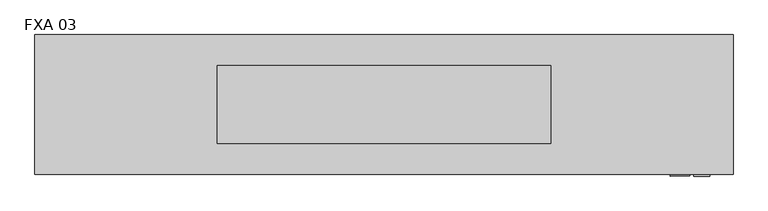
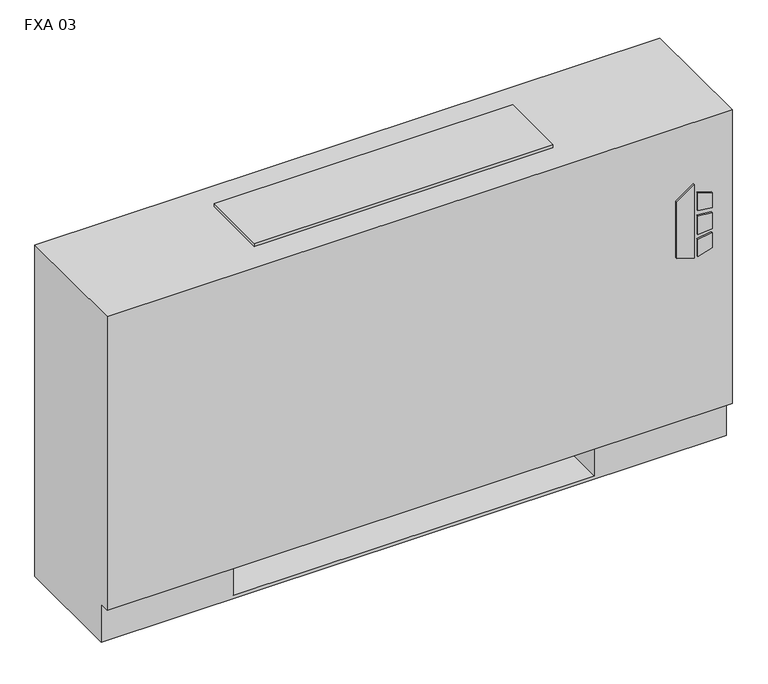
"""IFC4 building model written with IfcOpenShell, lengths in millimetres: proxy geometry, Vertical_Fan_Coil_Unit_-_FXA_-_IEC_-_4-Pipe_TS-FR_RH_2022 : FXA 03."""

from ifc_helpers import new_model, si_unit, point, frame, frame_2d, origin, place, context, project, spatial, polyline, circle_curve, trimmed, segment, composite_curve, outline, extrude, source, transform, mapped, element, save
from ifc_brep_helpers import plane_surface, revolved_surface, advanced_brep


def fxa_03_0b86ff3d(model_context):
    return source(origin(), model_context, "Body", "SolidModel", [
        extrude(outline(polyline([(391.6086829, 620.7868862), (381.6606126, 652.9602728), (523.831537, 652.9602728), (500.8095309, 620.7868862), (391.6086829, 620.7868862)])), frame((0.0, 12.7, 0.0), z_axis=(0.0, 1.0, 0.0), x_axis=(0.0, 0.0, 1.0)), (0.0, 0.0, 1.0), 3.175),
        extrude(outline(polyline([(470.6079683, 659.7186058), (467.4055757, 685.8), (496.6344168, 685.8), (504.6988318, 659.7186058), (470.6079683, 659.7186058)])), frame((0.0, 12.7, 0.0), z_axis=(0.0, 1.0, 0.0), x_axis=(0.0, 0.0, 1.0)), (0.0, 0.0, 1.0), 3.175),
        extrude(outline(polyline([(418.7444414, 685.8), (415.0789404, 659.7186058), (381.6606126, 659.7186058), (390.2948498, 685.8), (418.7444414, 685.8)])), frame((0.0, 12.7, 0.0), z_axis=(0.0, 1.0, 0.0), x_axis=(0.0, 0.0, 1.0)), (0.0, 0.0, 1.0), 3.175),
        extrude(outline(polyline([(458.0596028, 685.8), (460.3414292, 659.7186058), (424.4038806, 659.7186058), (427.1451456, 685.8), (458.0596028, 685.8)])), frame((0.0, 12.7, 0.0), z_axis=(0.0, 1.0, 0.0), x_axis=(0.0, 0.0, 1.0)), (0.0, 0.0, 1.0), 3.175),
        extrude(outline(polyline([(-298.45, 81.534), (-298.45, 223.266), (-177.8, 223.266), (-177.8, 81.534), (-298.45, 81.534)])), frame((0.0, 0.0, 327.025), z_axis=(0.0, 0.0, 1.0), x_axis=(1.0, 0.0, 0.0)), (0.0, 0.0, 1.0), 260.35),
        extrude(outline(composite_curve([segment(trimmed(circle_curve(frame_2d((546.1, 130.175)), 9.525), [point((536.575, 130.175))], [point((555.625, 130.175))], False, "CARTESIAN"), True, "CONTINUOUS"), segment(trimmed(circle_curve(frame_2d((546.1, 130.175)), 9.525), [point((555.625, 130.175))], [point((536.575, 130.175))], False, "CARTESIAN"), True, "CONTINUOUS")], self_intersect=False)), frame((0.0, 0.0, 101.6), z_axis=(0.0, 0.0, 1.0), x_axis=(1.0, 0.0, 0.0)), (0.0, 0.0, 1.0), 25.4),
        extrude(outline(polyline([(641.35, 196.85), (641.35, 63.5), (482.6, 63.5), (482.6, 196.85), (641.35, 196.85)])), frame((0.0, 0.0, 127.0), z_axis=(0.0, 0.0, 1.0), x_axis=(1.0, 0.0, 0.0)), (0.0, 0.0, 1.0), 50.8),
        extrude(outline(composite_curve([segment(trimmed(circle_curve(frame_2d((117.475, 472.44)), 7.9375), [point((117.475, 480.3775))], [point((117.475, 464.5025))], False, "CARTESIAN"), True, "CONTINUOUS"), segment(trimmed(circle_curve(frame_2d((117.475, 472.44)), 7.9375), [point((117.475, 464.5025))], [point((117.475, 480.3775))], False, "CARTESIAN"), True, "CONTINUOUS")], self_intersect=False)), frame((482.6, 0.0, 0.0), z_axis=(1.0, 0.0, 0.0), x_axis=(0.0, 1.0, 0.0)), (0.0, 0.0, 1.0), 50.8),
        extrude(outline(composite_curve([segment(trimmed(circle_curve(frame_2d((164.0586, 445.897)), 7.9375), [point((164.0586, 453.8345))], [point((164.0586, 437.9595))], False, "CARTESIAN"), True, "CONTINUOUS"), segment(trimmed(circle_curve(frame_2d((164.0586, 445.897)), 7.9375), [point((164.0586, 437.9595))], [point((164.0586, 453.8345))], False, "CARTESIAN"), True, "CONTINUOUS")], self_intersect=False)), frame((482.6, 0.0, 0.0), z_axis=(1.0, 0.0, 0.0), x_axis=(0.0, 1.0, 0.0)), (0.0, 0.0, 1.0), 50.8),
        extrude(outline(composite_curve([segment(trimmed(circle_curve(frame_2d((130.175, 554.99)), 7.9502), [point((130.175, 562.9402))], [point((130.175, 547.0398))], False, "CARTESIAN"), True, "CONTINUOUS"), segment(trimmed(circle_curve(frame_2d((130.175, 554.99)), 7.9502), [point((130.175, 547.0398))], [point((130.175, 562.9402))], False, "CARTESIAN"), True, "CONTINUOUS")], self_intersect=False)), frame((482.6, 0.0, 0.0), z_axis=(1.0, 0.0, 0.0), x_axis=(0.0, 1.0, 0.0)), (0.0, 0.0, 1.0), 50.8),
        extrude(outline(composite_curve([segment(trimmed(circle_curve(frame_2d((53.975, 416.56)), 7.9502), [point((53.975, 424.5102))], [point((53.975, 408.6098))], False, "CARTESIAN"), True, "CONTINUOUS"), segment(trimmed(circle_curve(frame_2d((53.975, 416.56)), 7.9502), [point((53.975, 408.6098))], [point((53.975, 424.5102))], False, "CARTESIAN"), True, "CONTINUOUS")], self_intersect=False)), frame((482.6, 0.0, 0.0), z_axis=(1.0, 0.0, 0.0), x_axis=(0.0, 1.0, 0.0)), (0.0, 0.0, 1.0), 50.8),
        advanced_brep(
        [(723.9, 244.475, 641.35), (-419.1, 244.475, 641.35), (-419.1, 15.875, 641.35), (723.9, 15.875, 641.35), (-419.1, 244.475, 0.0), (723.9, 244.475, 0.0), (723.9, 34.925, 0.0), (-419.1, 34.925, 0.0), (482.6, 244.475, 73.025), (711.2, 244.475, 73.025), (711.2, 244.475, 628.65), (482.6, 244.475, 628.65), (482.6, 244.475, 414.8650565), (511.175, 244.475, 414.8650565), (511.175, 244.475, 385.2349435), (482.6, 244.475, 385.2349435), (482.6, 244.475, 287.3375), (511.175, 244.475, 287.3375), (511.175, 244.475, 258.7625), (482.6, 244.475, 258.7625), (482.6, 244.475, 141.2875), (511.175, 244.475, 141.2875), (511.175, 244.475, 112.7125), (482.6, 244.475, 112.7125), (-177.8, 244.475, 628.65), (-406.4, 244.475, 628.65), (-406.4, 244.475, 73.025), (-177.8, 244.475, 73.025), (-177.8, 244.475, 112.7125), (-206.375, 244.475, 112.7125), (-206.375, 244.475, 141.2875), (-177.8, 244.475, 141.2875), (-177.8, 244.475, 258.7625), (-206.375, 244.475, 258.7625), (-206.375, 244.475, 287.3375), (-177.8, 244.475, 287.3375), (-177.8, 244.475, 385.2349435), (-206.375, 244.475, 385.2349435), (-206.375, 244.475, 414.8650565), (-177.8, 244.475, 414.8650565), (500.8626, 244.475, 127.0), (489.7374, 244.475, 127.0), (500.8626, 244.475, 400.05), (489.7374, 244.475, 400.05), (500.8626, 244.475, 273.05), (489.7374, 244.475, 273.05), (-184.9374, 244.475, 127.0), (-196.0626, 244.475, 127.0), (-184.9374, 244.475, 273.05), (-196.0626, 244.475, 273.05), (-184.9374, 244.475, 400.05), (-196.0626, 244.475, 400.05), (-419.1, 34.925, 73.025), (-419.1, 15.875, 73.025), (723.9, 15.875, 73.025), (723.9, 34.925, 73.025), (-177.8, 34.925, 73.025), (-177.8, 219.075, 73.025), (482.6, 219.075, 73.025), (482.6, 34.925, 73.025), (482.6, 34.925, 6.35), (-177.8, 34.925, 6.35), (482.6, 41.275, 628.65), (711.2, 41.275, 628.65), (711.2, 41.275, 73.025), (482.6, 41.275, 73.025), (-177.8, 41.275, 628.65), (-177.8, 41.275, 73.025), (-406.4, 41.275, 73.025), (-406.4, 41.275, 628.65), (482.6, 219.075, 73.025), (482.6, 238.125, 112.7125), (482.6, 238.125, 141.2875), (482.6, 238.125, 258.7625), (482.6, 238.125, 287.3375), (482.6, 238.125, 385.2349435), (482.6, 238.125, 414.8650565), (-177.8, 219.075, 73.025), (-177.8, 238.125, 414.8650565), (-177.8, 238.125, 385.2349435), (-177.8, 238.125, 287.3375), (-177.8, 238.125, 258.7625), (-177.8, 238.125, 141.2875), (-177.8, 238.125, 112.7125), (-177.8, 219.075, 6.35), (482.6, 219.075, 6.35), (511.175, 238.125, 112.7125), (511.175, 238.125, 141.2875), (489.7374, 238.125, 127.0), (500.8626, 238.125, 127.0), (511.175, 238.125, 258.7625), (511.175, 238.125, 287.3375), (489.7374, 238.125, 273.05), (500.8626, 238.125, 273.05), (511.175, 238.125, 385.2349435), (511.175, 238.125, 414.8650565), (489.7374, 238.125, 400.05), (500.8626, 238.125, 400.05), (-206.375, 238.125, 141.2875), (-206.375, 238.125, 112.7125), (-196.0626, 238.125, 127.0), (-184.9374, 238.125, 127.0), (-206.375, 238.125, 287.3375), (-206.375, 238.125, 258.7625), (-196.0626, 238.125, 273.05), (-184.9374, 238.125, 273.05), (-206.375, 238.125, 414.8650565), (-206.375, 238.125, 385.2349435), (-196.0626, 238.125, 400.05), (-184.9374, 238.125, 400.05)],
        [
            (0, 1),
            (1, 2),
            (2, 3),
            (3, 0),
            (4, 5),
            (5, 6),
            (6, 7),
            (7, 4),
            (0, 5),
            (4, 1),
            (8, 9),
            (9, 10),
            (10, 11),
            (11, 12),
            (12, 13),
            (13, 14),
            (14, 15),
            (15, 16),
            (16, 17),
            (17, 18),
            (18, 19),
            (19, 20),
            (20, 21),
            (21, 22),
            (22, 23),
            (23, 8),
            (24, 25),
            (25, 26),
            (26, 27),
            (27, 28),
            (28, 29),
            (29, 30),
            (30, 31),
            (31, 32),
            (32, 33),
            (33, 34),
            (34, 35),
            (35, 36),
            (36, 37),
            (37, 38),
            (38, 39),
            (39, 24),
            (40, 41, circle_curve(frame((495.3, 244.475, 127.0), z_axis=(0.0, -1.0, 0.0), x_axis=(-1.0, 0.0, 0.0)), 5.5626)),
            (41, 40, circle_curve(frame((495.3, 244.475, 127.0), z_axis=(0.0, -1.0, 0.0), x_axis=(-1.0, 0.0, 0.0)), 5.5626)),
            (42, 43, circle_curve(frame((495.3, 244.475, 400.05), z_axis=(0.0, -1.0, 0.0), x_axis=(-1.0, 0.0, 0.0)), 5.5626)),
            (43, 42, circle_curve(frame((495.3, 244.475, 400.05), z_axis=(0.0, -1.0, 0.0), x_axis=(-1.0, 0.0, 0.0)), 5.5626)),
            (44, 45, circle_curve(frame((495.3, 244.475, 273.05), z_axis=(0.0, -1.0, 0.0), x_axis=(-1.0, 0.0, 0.0)), 5.5626)),
            (45, 44, circle_curve(frame((495.3, 244.475, 273.05), z_axis=(0.0, -1.0, 0.0), x_axis=(-1.0, 0.0, 0.0)), 5.5626)),
            (46, 47, circle_curve(frame((-190.5, 244.475, 127.0), z_axis=(0.0, -1.0, 0.0), x_axis=(-1.0, 0.0, 0.0)), 5.5626)),
            (47, 46, circle_curve(frame((-190.5, 244.475, 127.0), z_axis=(0.0, -1.0, 0.0), x_axis=(-1.0, 0.0, 0.0)), 5.5626)),
            (48, 49, circle_curve(frame((-190.5, 244.475, 273.05), z_axis=(0.0, -1.0, 0.0), x_axis=(-1.0, 0.0, 0.0)), 5.5626)),
            (49, 48, circle_curve(frame((-190.5, 244.475, 273.05), z_axis=(0.0, -1.0, 0.0), x_axis=(-1.0, 0.0, 0.0)), 5.5626)),
            (50, 51, circle_curve(frame((-190.5, 244.475, 400.05), z_axis=(0.0, -1.0, 0.0), x_axis=(-1.0, 0.0, 0.0)), 5.5626)),
            (51, 50, circle_curve(frame((-190.5, 244.475, 400.05), z_axis=(0.0, -1.0, 0.0), x_axis=(-1.0, 0.0, 0.0)), 5.5626)),
            (7, 52),
            (52, 53),
            (53, 2),
            (53, 54),
            (54, 3),
            (54, 55),
            (55, 6),
            (52, 56),
            (56, 57),
            (57, 58),
            (58, 59),
            (59, 55),
            (59, 60),
            (60, 61),
            (61, 56),
            (62, 63),
            (63, 64),
            (64, 65),
            (65, 62),
            (66, 67),
            (67, 68),
            (68, 69),
            (69, 66),
            (65, 70),
            (70, 8),
            (23, 71),
            (71, 72),
            (72, 20),
            (19, 73),
            (73, 74),
            (74, 16),
            (15, 75),
            (75, 76),
            (76, 12),
            (11, 62),
            (64, 9),
            (63, 10),
            (69, 25),
            (24, 66),
            (68, 26),
            (67, 77),
            (77, 27),
            (39, 78),
            (78, 79),
            (79, 36),
            (35, 80),
            (80, 81),
            (81, 32),
            (31, 82),
            (82, 83),
            (83, 28),
            (57, 84),
            (84, 85),
            (85, 58),
            (85, 60),
            (84, 61),
            (71, 86),
            (86, 87),
            (87, 72),
            (88, 89, circle_curve(frame((495.3, 238.125, 127.0), z_axis=(0.0, 1.0, 0.0), x_axis=(-1.0, 0.0, 0.0)), 5.5626)),
            (89, 88, circle_curve(frame((495.3, 238.125, 127.0), z_axis=(0.0, 1.0, 0.0), x_axis=(-1.0, 0.0, 0.0)), 5.5626)),
            (73, 90),
            (90, 91),
            (91, 74),
            (92, 93, circle_curve(frame((495.3, 238.125, 273.05), z_axis=(0.0, 1.0, 0.0), x_axis=(-1.0, 0.0, 0.0)), 5.5626)),
            (93, 92, circle_curve(frame((495.3, 238.125, 273.05), z_axis=(0.0, 1.0, 0.0), x_axis=(-1.0, 0.0, 0.0)), 5.5626)),
            (75, 94),
            (94, 95),
            (95, 76),
            (96, 97, circle_curve(frame((495.3, 238.125, 400.05), z_axis=(0.0, 1.0, 0.0), x_axis=(-1.0, 0.0, 0.0)), 5.5626)),
            (97, 96, circle_curve(frame((495.3, 238.125, 400.05), z_axis=(0.0, 1.0, 0.0), x_axis=(-1.0, 0.0, 0.0)), 5.5626)),
            (98, 99),
            (99, 83),
            (82, 98),
            (100, 101, circle_curve(frame((-190.5, 238.125, 127.0), z_axis=(0.0, 1.0, 0.0), x_axis=(-1.0, 0.0, 0.0)), 5.5626)),
            (101, 100, circle_curve(frame((-190.5, 238.125, 127.0), z_axis=(0.0, 1.0, 0.0), x_axis=(-1.0, 0.0, 0.0)), 5.5626)),
            (102, 103),
            (103, 81),
            (80, 102),
            (104, 105, circle_curve(frame((-190.5, 238.125, 273.05), z_axis=(0.0, 1.0, 0.0), x_axis=(-1.0, 0.0, 0.0)), 5.5626)),
            (105, 104, circle_curve(frame((-190.5, 238.125, 273.05), z_axis=(0.0, 1.0, 0.0), x_axis=(-1.0, 0.0, 0.0)), 5.5626)),
            (106, 107),
            (107, 79),
            (78, 106),
            (108, 109, circle_curve(frame((-190.5, 238.125, 400.05), z_axis=(0.0, 1.0, 0.0), x_axis=(-1.0, 0.0, 0.0)), 5.5626)),
            (109, 108, circle_curve(frame((-190.5, 238.125, 400.05), z_axis=(0.0, 1.0, 0.0), x_axis=(-1.0, 0.0, 0.0)), 5.5626)),
            (87, 21),
            (86, 22),
            (91, 17),
            (90, 18),
            (95, 13),
            (94, 14),
            (30, 98),
            (99, 29),
            (34, 102),
            (103, 33),
            (38, 106),
            (107, 37),
            (88, 41),
            (40, 89),
            (96, 43),
            (42, 97),
            (92, 45),
            (44, 93),
            (100, 47),
            (46, 101),
            (104, 49),
            (48, 105),
            (108, 51),
            (50, 109),
        ],
        [
            plane_surface(frame((-419.1, 244.475, 641.35), z_axis=(0.0, 0.0, 1.0), x_axis=(-1.0, 0.0, 0.0))),
            plane_surface(frame((-419.1, 244.475, 0.0), z_axis=(0.0, 0.0, -1.0), x_axis=(1.0, 0.0, 0.0))),
            plane_surface(frame((723.9, 244.475, 641.35), z_axis=(0.0, 1.0, 0.0), x_axis=(0.0, 0.0, -1.0))),
            plane_surface(frame((-419.1, 244.475, 641.35), z_axis=(-1.0, 0.0, 0.0), x_axis=(0.0, 0.0, -1.0))),
            plane_surface(frame((-419.1, 15.875, 641.35), z_axis=(0.0, -1.0, 0.0), x_axis=(0.0, 0.0, -1.0))),
            plane_surface(frame((723.9, 15.875, 641.35), z_axis=(1.0, 0.0, 0.0), x_axis=(0.0, 0.0, -1.0))),
            plane_surface(frame((-419.1, 15.875, 73.025), z_axis=(0.0, 0.0, -1.0), x_axis=(1.0, 0.0, 0.0))),
            plane_surface(frame((-419.1, 34.925, 73.025), z_axis=(0.0, -1.0, 0.0), x_axis=(1.0, 0.0, 0.0))),
            plane_surface(frame((482.6, 41.275, 628.65), z_axis=(0.0, 1.0, 0.0), x_axis=(0.0, 0.0, -1.0))),
            plane_surface(frame((482.6, 41.275, 628.65), z_axis=(1.0, 0.0, 0.0), x_axis=(0.0, 1.0, 0.0))),
            plane_surface(frame((482.6, 41.275, 73.025), z_axis=(0.0, 0.0, 1.0), x_axis=(0.0, 1.0, 0.0))),
            plane_surface(frame((711.2, 41.275, 73.025), z_axis=(-1.0, 0.0, 0.0), x_axis=(0.0, 1.0, 0.0))),
            plane_surface(frame((711.2, 41.275, 628.65), z_axis=(0.0, 0.0, -1.0), x_axis=(0.0, 1.0, 0.0))),
            plane_surface(frame((-177.8, 41.275, 628.65), z_axis=(0.0, 0.0, -1.0), x_axis=(0.0, 1.0, 0.0))),
            plane_surface(frame((-406.4, 41.275, 628.65), z_axis=(1.0, 0.0, 0.0), x_axis=(0.0, 1.0, 0.0))),
            plane_surface(frame((-406.4, 41.275, 73.025), z_axis=(0.0, 0.0, 1.0), x_axis=(0.0, 1.0, 0.0))),
            plane_surface(frame((-177.8, 41.275, 73.025), z_axis=(-1.0, 0.0, 0.0), x_axis=(0.0, 1.0, 0.0))),
            plane_surface(frame((482.6, 219.075, 73.025), z_axis=(0.0, -1.0, 0.0), x_axis=(0.0, 0.0, -1.0))),
            plane_surface(frame((482.6, 219.075, 73.025), z_axis=(-1.0, 0.0, 0.0), x_axis=(0.0, -1.0, 0.0))),
            plane_surface(frame((482.6, 219.075, 6.35), z_axis=(0.0, 0.0, 1.0), x_axis=(0.0, -1.0, 0.0))),
            plane_surface(frame((-177.8, 219.075, 6.35), z_axis=(1.0, 0.0, 0.0), x_axis=(0.0, -1.0, 0.0))),
            plane_surface(frame((511.175, 238.125, 141.2875), z_axis=(0.0, -1.0, 0.0), x_axis=(-1.0, 0.0, 0.0))),
            plane_surface(frame((482.6, 244.475, 141.2875), z_axis=(0.0, 0.0, 1.0), x_axis=(0.0, -1.0, 0.0))),
            plane_surface(frame((511.175, 244.475, 141.2875), z_axis=(1.0, 0.0, 0.0), x_axis=(0.0, -1.0, 0.0))),
            plane_surface(frame((511.175, 244.475, 112.7125), z_axis=(0.0, 0.0, -1.0), x_axis=(0.0, -1.0, 0.0))),
            plane_surface(frame((482.6, 244.475, 287.3375), z_axis=(0.0, 0.0, 1.0), x_axis=(0.0, -1.0, 0.0))),
            plane_surface(frame((511.175, 244.475, 287.3375), z_axis=(1.0, 0.0, 0.0), x_axis=(0.0, -1.0, 0.0))),
            plane_surface(frame((511.175, 244.475, 258.7625), z_axis=(0.0, 0.0, -1.0), x_axis=(0.0, -1.0, 0.0))),
            plane_surface(frame((482.6, 244.475, 414.8650565), z_axis=(0.0, 0.0, 1.0), x_axis=(0.0, -1.0, 0.0))),
            plane_surface(frame((511.175, 244.475, 414.8650565), z_axis=(1.0, 0.0, 0.0), x_axis=(0.0, -1.0, 0.0))),
            plane_surface(frame((511.175, 244.475, 385.2349435), z_axis=(0.0, 0.0, -1.0), x_axis=(0.0, -1.0, 0.0))),
            plane_surface(frame((-206.375, 244.475, 141.2875), z_axis=(0.0, 0.0, 1.0), x_axis=(0.0, -1.0, 0.0))),
            plane_surface(frame((-177.8, 244.475, 112.7125), z_axis=(0.0, 0.0, -1.0), x_axis=(0.0, -1.0, 0.0))),
            plane_surface(frame((-206.375, 244.475, 112.7125), z_axis=(-1.0, 0.0, 0.0), x_axis=(0.0, -1.0, 0.0))),
            plane_surface(frame((-206.375, 244.475, 287.3375), z_axis=(0.0, 0.0, 1.0), x_axis=(0.0, -1.0, 0.0))),
            plane_surface(frame((-177.8, 244.475, 258.7625), z_axis=(0.0, 0.0, -1.0), x_axis=(0.0, -1.0, 0.0))),
            plane_surface(frame((-206.375, 244.475, 258.7625), z_axis=(-1.0, 0.0, 0.0), x_axis=(0.0, -1.0, 0.0))),
            plane_surface(frame((-206.375, 244.475, 414.8650565), z_axis=(0.0, 0.0, 1.0), x_axis=(0.0, -1.0, 0.0))),
            plane_surface(frame((-177.8, 244.475, 385.2349435), z_axis=(0.0, 0.0, -1.0), x_axis=(0.0, -1.0, 0.0))),
            plane_surface(frame((-206.375, 244.475, 385.2349435), z_axis=(-1.0, 0.0, 0.0), x_axis=(0.0, -1.0, 0.0))),
            revolved_surface(polyline([(489.73740000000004, 238.125, 127.0), (489.73740000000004, 244.475, 127.0)]), (495.3, 244.475, 127.0), (0.0, -1.0, 0.0)),
            revolved_surface(polyline([(489.73740000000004, 238.125, 400.05), (489.73740000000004, 244.475, 400.05)]), (495.3, 244.475, 400.05), (0.0, -1.0, 0.0)),
            revolved_surface(polyline([(489.73740000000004, 238.125, 273.05), (489.73740000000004, 244.475, 273.05)]), (495.3, 244.475, 273.05), (0.0, -1.0, 0.0)),
            revolved_surface(polyline([(-196.0626, 238.125, 127.0), (-196.0626, 244.475, 127.0)]), (-190.5, 244.475, 127.0), (0.0, -1.0, 0.0)),
            revolved_surface(polyline([(-196.0626, 238.125, 273.05), (-196.0626, 244.475, 273.05)]), (-190.5, 244.475, 273.05), (0.0, -1.0, 0.0)),
            revolved_surface(polyline([(-196.0626, 238.125, 400.05), (-196.0626, 244.475, 400.05)]), (-190.5, 244.475, 400.05), (0.0, -1.0, 0.0)),
        ],
        [
            (0, [[1, 2, 3, 4]]),
            (1, [[5, 6, 7, 8]]),
            (2, [[-1, 9, -5, 10], [11, 12, 13, 14, 15, 16, 17, 18, 19, 20, 21, 22, 23, 24, 25, 26], [27, 28, 29, 30, 31, 32, 33, 34, 35, 36, 37, 38, 39, 40, 41, 42], [43, 44], [45, 46], [47, 48], [49, 50], [51, 52], [53, 54]]),
            (3, [[-2, -10, -8, 55, 56, 57]]),
            (4, [[-3, -57, 58, 59]]),
            (5, [[-4, -59, 60, 61, -6, -9]]),
            (6, [[-56, 62, 63, 64, 65, 66, -60, -58]]),
            (7, [[-7, -61, -66, 67, 68, 69, -62, -55]]),
            (8, [[70, 71, 72, 73]]),
            (8, [[74, 75, 76, 77]]),
            (9, [[-73, 78, 79, -26, 80, 81, 82, -22, 83, 84, 85, -18, 86, 87, 88, -14, 89]]),
            (10, [[-72, 90, -11, -79, -78]]),
            (11, [[-71, 91, -12, -90]]),
            (12, [[-70, -89, -13, -91]]),
            (13, [[-77, 92, -27, 93]]),
            (14, [[-76, 94, -28, -92]]),
            (15, [[-75, 95, 96, -29, -94]]),
            (16, [[-74, -93, -42, 97, 98, 99, -38, 100, 101, 102, -34, 103, 104, 105, -30, -96, -95]]),
            (17, [[-64, 106, 107, 108]]),
            (18, [[-108, 109, -67, -65]]),
            (19, [[-107, 110, -68, -109]]),
            (20, [[-106, -63, -69, -110]]),
            (21, [[111, 112, 113, -81], [114, 115]]),
            (21, [[116, 117, 118, -84], [119, 120]]),
            (21, [[121, 122, 123, -87], [124, 125]]),
            (21, [[126, 127, -104, 128], [129, 130]]),
            (21, [[131, 132, -101, 133], [134, 135]]),
            (21, [[136, 137, -98, 138], [139, 140]]),
            (22, [[-113, 141, -23, -82]]),
            (23, [[-112, 142, -24, -141]]),
            (24, [[-111, -80, -25, -142]]),
            (25, [[-118, 143, -19, -85]]),
            (26, [[-117, 144, -20, -143]]),
            (27, [[-116, -83, -21, -144]]),
            (28, [[-123, 145, -15, -88]]),
            (29, [[-122, 146, -16, -145]]),
            (30, [[-121, -86, -17, -146]]),
            (31, [[-128, -103, -33, 147]]),
            (32, [[-127, 148, -31, -105]]),
            (33, [[-126, -147, -32, -148]]),
            (34, [[-133, -100, -37, 149]]),
            (35, [[-132, 150, -35, -102]]),
            (36, [[-131, -149, -36, -150]]),
            (37, [[-138, -97, -41, 151]]),
            (38, [[-137, 152, -39, -99]]),
            (39, [[-136, -151, -40, -152]]),
            (40, [[153, -43, 154, -114]]),
            (40, [[-153, -115, -154, -44]]),
            (41, [[155, -45, 156, -124]]),
            (41, [[-155, -125, -156, -46]]),
            (42, [[157, -47, 158, -119]]),
            (42, [[-157, -120, -158, -48]]),
            (43, [[159, -49, 160, -129]]),
            (43, [[-159, -130, -160, -50]]),
            (44, [[161, -51, 162, -134]]),
            (44, [[-161, -135, -162, -52]]),
            (45, [[163, -53, 164, -139]]),
            (45, [[-163, -140, -164, -54]]),
        ],
    ),
        extrude(outline(polyline([(425.45, 193.675), (425.45, 66.675), (-120.65, 66.675), (-120.65, 193.675), (425.45, 193.675)])), frame((0.0, 0.0, 641.35), z_axis=(0.0, 0.0, 1.0), x_axis=(1.0, 0.0, 0.0)), (0.0, 0.0, 1.0), 6.35),
    ])


if __name__ == "__main__":
    model = new_model("IFC4")
    model_context = context("Model", 3, world=origin())
    ifc_project = project(units=[si_unit("LENGTHUNIT", "METRE", prefix="MILLI")], contexts=[model_context])
    site = spatial("IfcSite", under=ifc_project)
    building = spatial("IfcBuilding", under=site)
    placement = place(None, origin())
    fxa_03_shape = fxa_03_0b86ff3d(model_context)
    element("IfcBuildingElementProxy", 1, Name="Vertical_Fan_Coil_Unit_-_FXA_-_IEC_-_4-Pipe_TS-FR_RH_2022 : FXA 03", ObjectType="Vertical_Fan_Coil_Unit_-_FXA_-_IEC_-_4-Pipe_TS-FR_RH_2022 : FXA 03", at=placement, inside=building, context=model_context, shape_type="MappedRepresentation", body=[
        mapped(fxa_03_shape, transform((0.0, 0.0, 0.0), x_axis=(1.0, 0.0, 0.0), y_axis=(0.0, 1.0, 0.0), z_axis=(0.0, 0.0, 1.0))),
    ])
    save(model, "model.ifc")
